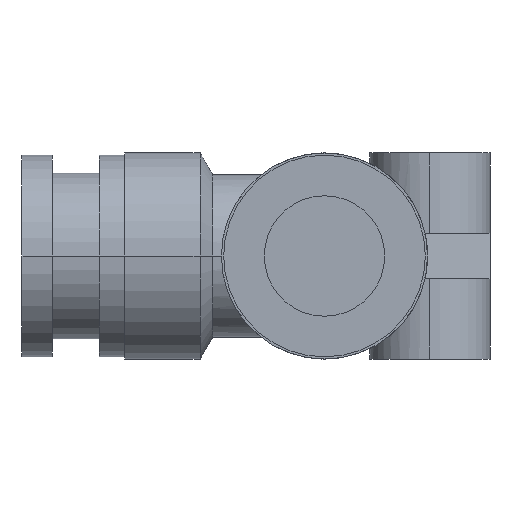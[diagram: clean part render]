
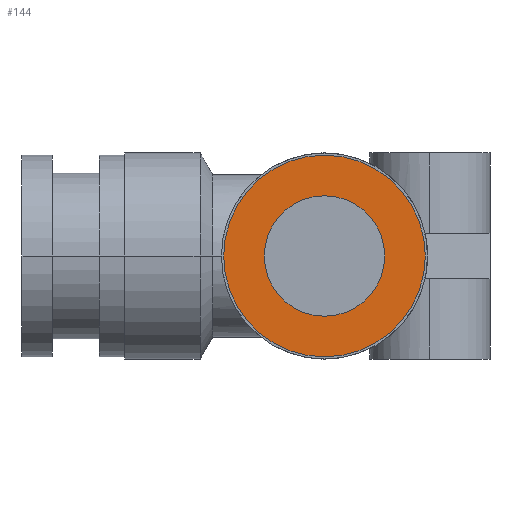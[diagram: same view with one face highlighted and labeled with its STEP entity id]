
A CAD part, left-side view. The second image highlights one B-rep face of the part: STEP entity #144.
In plain terms, the highlighted planar face has unit normal (-1, 0, 0).
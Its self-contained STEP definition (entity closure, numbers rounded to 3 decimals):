
#144 = ADVANCED_FACE( '', ( #297, #298 ), #299, .T. );
#297 = FACE_BOUND( '', #451, .T. );
#298 = FACE_OUTER_BOUND( '', #452, .T. );
#299 = PLANE( '', #453 );
#451 = EDGE_LOOP( '', ( #973, #974 ) );
#452 = EDGE_LOOP( '', ( #975, #976 ) );
#453 = AXIS2_PLACEMENT_3D( '', #977, #978, #979 );
#973 = ORIENTED_EDGE( '', *, *, #1077, .T. );
#974 = ORIENTED_EDGE( '', *, *, #1073, .T. );
#975 = ORIENTED_EDGE( '', *, *, #983, .T. );
#976 = ORIENTED_EDGE( '', *, *, #1137, .T. );
#977 = CARTESIAN_POINT( '', ( -20.1, 3.35, 0. ) );
#978 = DIRECTION( '', ( -1., 0., 0. ) );
#979 = DIRECTION( '', ( 0., 1., 0. ) );
#983 = EDGE_CURVE( '', #1139, #1143, #1145, .T. );
#1073 = EDGE_CURVE( '', #1318, #1315, #1319, .T. );
#1077 = EDGE_CURVE( '', #1315, #1318, #1324, .T. );
#1137 = EDGE_CURVE( '', #1143, #1139, #1397, .T. );
#1139 = VERTEX_POINT( '', #1399 );
#1143 = VERTEX_POINT( '', #1404 );
#1145 = CIRCLE( '', #1407, 6.7 );
#1315 = VERTEX_POINT( '', #1676 );
#1318 = VERTEX_POINT( '', #1680 );
#1319 = CIRCLE( '', #1681, 4. );
#1324 = CIRCLE( '', #1687, 4. );
#1397 = CIRCLE( '', #1829, 6.7 );
#1399 = CARTESIAN_POINT( '', ( -20.1, 6.7, 0. ) );
#1404 = CARTESIAN_POINT( '', ( -20.1, -6.7, 0. ) );
#1407 = AXIS2_PLACEMENT_3D( '', #1835, #1836, #1837 );
#1676 = CARTESIAN_POINT( '', ( -20.1, 4., 0. ) );
#1680 = CARTESIAN_POINT( '', ( -20.1, -4., 0. ) );
#1681 = AXIS2_PLACEMENT_3D( '', #2006, #2007, #2008 );
#1687 = AXIS2_PLACEMENT_3D( '', #2016, #2017, #2018 );
#1829 = AXIS2_PLACEMENT_3D( '', #2159, #2160, #2161 );
#1835 = CARTESIAN_POINT( '', ( -20.1, 0., 0. ) );
#1836 = DIRECTION( '', ( -1., 0., 0. ) );
#1837 = DIRECTION( '', ( 0., 1., 0. ) );
#2006 = CARTESIAN_POINT( '', ( -20.1, 0., 0. ) );
#2007 = DIRECTION( '', ( 1., 0., 0. ) );
#2008 = DIRECTION( '', ( 0., 1., 0. ) );
#2016 = CARTESIAN_POINT( '', ( -20.1, 0., 0. ) );
#2017 = DIRECTION( '', ( 1., 0., 0. ) );
#2018 = DIRECTION( '', ( 0., 1., 0. ) );
#2159 = CARTESIAN_POINT( '', ( -20.1, 0., 0. ) );
#2160 = DIRECTION( '', ( -1., 0., 0. ) );
#2161 = DIRECTION( '', ( 0., 1., 0. ) );
